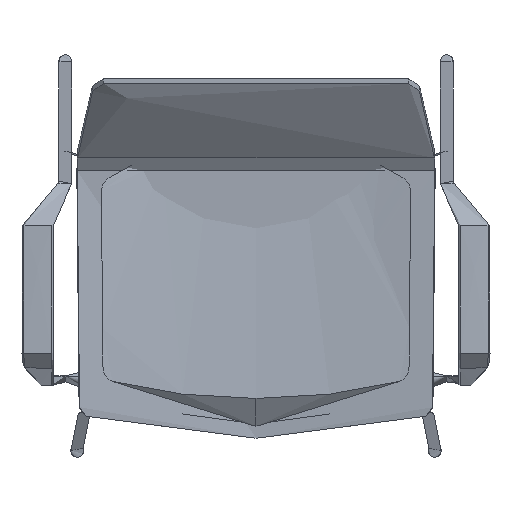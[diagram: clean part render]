
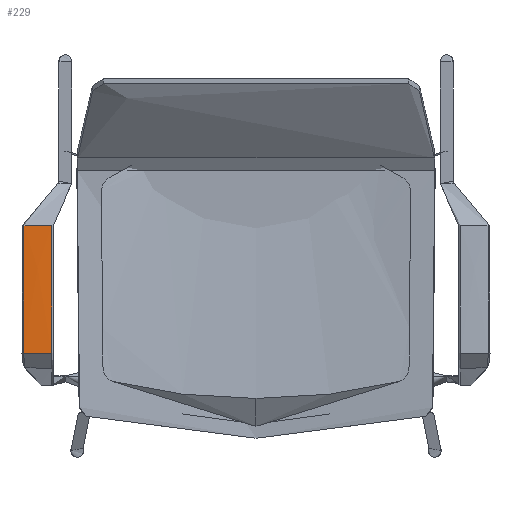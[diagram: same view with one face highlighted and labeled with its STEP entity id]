
A CAD part, top view. The second image highlights one B-rep face of the part: STEP entity #229.
In plain terms, the highlighted free-form (B-spline) face has degree [3, 2] with [4, 3] control points.
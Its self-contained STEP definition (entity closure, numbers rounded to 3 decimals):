
#229=ADVANCED_FACE('',(#409),#2572,.T.);
#409=FACE_OUTER_BOUND('',#589,.T.);
#589=EDGE_LOOP('',(#1148,#1149,#1150,#1151));
#1148=ORIENTED_EDGE('',*,*,#1700,.T.);
#1149=ORIENTED_EDGE('',*,*,#1679,.T.);
#1150=ORIENTED_EDGE('',*,*,#1687,.T.);
#1151=ORIENTED_EDGE('',*,*,#1643,.F.);
#1643=EDGE_CURVE('',#2420,#2421,#2171,.T.);
#1679=EDGE_CURVE('',#2413,#2414,#1972,.T.);
#1687=EDGE_CURVE('',#2414,#2421,#1980,.T.);
#1700=EDGE_CURVE('',#2420,#2413,#1991,.T.);
#1972=(
BOUNDED_CURVE()
B_SPLINE_CURVE(2,(#9966,#9967,#9968),.UNSPECIFIED.,.F.,.F.)
B_SPLINE_CURVE_WITH_KNOTS((3,3),(5.503,40.867),
 .UNSPECIFIED.)
CURVE()
GEOMETRIC_REPRESENTATION_ITEM()
RATIONAL_B_SPLINE_CURVE((1.,0.999,1.))
REPRESENTATION_ITEM('')
);
#1980=(
BOUNDED_CURVE()
B_SPLINE_CURVE(3,(#9995,#9996,#9997,#9998),.UNSPECIFIED.,.F.,.F.)
B_SPLINE_CURVE_WITH_KNOTS((4,4),(0.,160.849),
 .UNSPECIFIED.)
CURVE()
GEOMETRIC_REPRESENTATION_ITEM()
RATIONAL_B_SPLINE_CURVE((1.,1.,1.,1.))
REPRESENTATION_ITEM('')
);
#1991=(
BOUNDED_CURVE()
B_SPLINE_CURVE(3,(#10053,#10054,#10055,#10056),.UNSPECIFIED.,.F.,.F.)
B_SPLINE_CURVE_WITH_KNOTS((4,4),(12.598,173.362),
 .UNSPECIFIED.)
CURVE()
GEOMETRIC_REPRESENTATION_ITEM()
RATIONAL_B_SPLINE_CURVE((1.,1.,1.,1.))
REPRESENTATION_ITEM('')
);
#2171=B_SPLINE_CURVE_WITH_KNOTS('',3,(#9669,#9670,#9671,#9672,#9673,#9674,
#9675,#9676,#9677,#9678,#9679,#9680,#9681,#9682,#9683,#9684,#9685,#9686,
#9687,#9688,#9689,#9690),.UNSPECIFIED.,.F.,.F.,(4,2,2,2,2,2,2,2,2,2,4),
(43.85,44.247,45.237,49.198,53.158,
57.119,61.079,65.04,69.,69.99,
70.419),.UNSPECIFIED.);
#2413=VERTEX_POINT('',#9514);
#2414=VERTEX_POINT('',#9515);
#2420=VERTEX_POINT('',#9521);
#2421=VERTEX_POINT('',#9522);
#2572=(
BOUNDED_SURFACE()
B_SPLINE_SURFACE(3,2,((#9150,#9151,#9152),(#9153,#9154,#9155),(#9156,#9157,
#9158),(#9159,#9160,#9161)),.UNSPECIFIED.,.F.,.F.,.F.)
B_SPLINE_SURFACE_WITH_KNOTS((4,4),(3,3),(0.,173.567),(0.,43.067),
 .UNSPECIFIED.)
GEOMETRIC_REPRESENTATION_ITEM()
RATIONAL_B_SPLINE_SURFACE(((1.,0.999,1.),(1.,0.999,
1.),(1.,0.999,1.),(1.,0.999,1.)))
REPRESENTATION_ITEM('')
SURFACE()
);
#9150=CARTESIAN_POINT('',(-298.,69.895,643.014));
#9151=CARTESIAN_POINT('',(-276.447,69.887,642.853));
#9152=CARTESIAN_POINT('',(-255.,70.,645.));
#9153=CARTESIAN_POINT('',(-298.,12.151,646.055));
#9154=CARTESIAN_POINT('',(-276.447,12.145,645.894));
#9155=CARTESIAN_POINT('',(-255.,12.224,648.043));
#9156=CARTESIAN_POINT('',(-298.,-45.665,647.709));
#9157=CARTESIAN_POINT('',(-276.447,-45.668,647.548));
#9158=CARTESIAN_POINT('',(-255.,-45.624,649.698));
#9159=CARTESIAN_POINT('',(-298.,-103.488,647.973));
#9160=CARTESIAN_POINT('',(-276.447,-103.489,647.812));
#9161=CARTESIAN_POINT('',(-255.,-103.479,649.962));
#9514=CARTESIAN_POINT('',(-292.498,-103.488,647.97));
#9515=CARTESIAN_POINT('',(-257.189,-103.48,649.749));
#9521=CARTESIAN_POINT('',(-291.967,57.292,643.656));
#9522=CARTESIAN_POINT('',(-257.189,57.386,645.429));
#9669=CARTESIAN_POINT('',(-291.967,57.292,643.656));
#9670=CARTESIAN_POINT('',(-291.793,57.293,643.661));
#9671=CARTESIAN_POINT('',(-291.62,57.293,643.659));
#9672=CARTESIAN_POINT('',(-291.013,57.293,643.666));
#9673=CARTESIAN_POINT('',(-290.58,57.293,643.67));
#9674=CARTESIAN_POINT('',(-288.417,57.295,643.696));
#9675=CARTESIAN_POINT('',(-286.686,57.297,643.728));
#9676=CARTESIAN_POINT('',(-283.226,57.302,643.815));
#9677=CARTESIAN_POINT('',(-281.496,57.305,643.869));
#9678=CARTESIAN_POINT('',(-278.037,57.312,644.001));
#9679=CARTESIAN_POINT('',(-276.308,57.316,644.077));
#9680=CARTESIAN_POINT('',(-272.851,57.326,644.253));
#9681=CARTESIAN_POINT('',(-271.123,57.331,644.353));
#9682=CARTESIAN_POINT('',(-267.668,57.342,644.573));
#9683=CARTESIAN_POINT('',(-265.942,57.349,644.695));
#9684=CARTESIAN_POINT('',(-262.49,57.362,644.96));
#9685=CARTESIAN_POINT('',(-260.765,57.37,645.104));
#9686=CARTESIAN_POINT('',(-258.61,57.38,645.298));
#9687=CARTESIAN_POINT('',(-258.18,57.382,645.338));
#9688=CARTESIAN_POINT('',(-257.562,57.385,645.394));
#9689=CARTESIAN_POINT('',(-257.375,57.386,645.414));
#9690=CARTESIAN_POINT('',(-257.189,57.386,645.429));
#9966=CARTESIAN_POINT('',(-292.498,-103.488,647.97));
#9967=CARTESIAN_POINT('',(-274.804,-103.488,648.08));
#9968=CARTESIAN_POINT('',(-257.189,-103.48,649.749));
#9995=CARTESIAN_POINT('',(-257.189,-103.48,649.749));
#9996=CARTESIAN_POINT('',(-257.189,-49.835,649.504));
#9997=CARTESIAN_POINT('',(-257.189,3.805,648.063));
#9998=CARTESIAN_POINT('',(-257.189,57.386,645.429));
#10053=CARTESIAN_POINT('',(-291.967,57.292,643.656));
#10054=CARTESIAN_POINT('',(-292.291,3.74,646.286));
#10055=CARTESIAN_POINT('',(-292.468,-49.871,647.725));
#10056=CARTESIAN_POINT('',(-292.498,-103.488,647.97));
